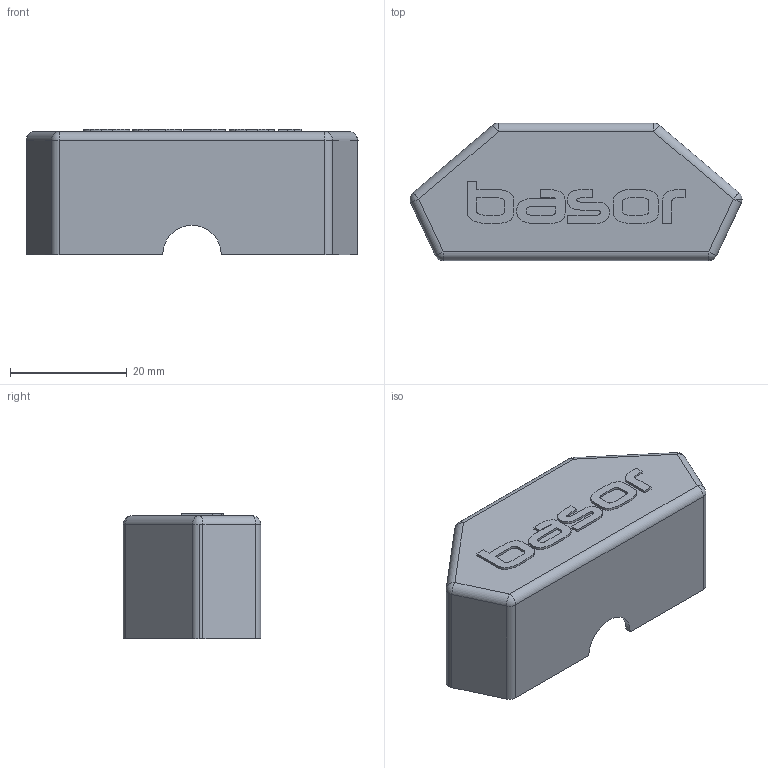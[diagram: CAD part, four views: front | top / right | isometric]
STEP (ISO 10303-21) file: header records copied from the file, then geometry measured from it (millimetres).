
FILE_DESCRIPTION (( 'STEP AP203' ), '1' );
FILE_NAME ('Tapón TFSO.STEP', '2024-04-23T10:30:28', ( '' ), ( '' ), 'SwSTEP 2.0', 'SolidWorks 2022', '' );
FILE_SCHEMA (( 'CONFIG_CONTROL_DESIGN' ));
Length unit declared in the file: millimetre
Products named in the file (1): Tapón TFSO
Bounding box: 56.77 x 23.5 x 21.4 mm (x, y, z)
Volume: 3695.3 mm3; surface area: 7507.4 mm2
Topology: 1 solids, 1 shells, 162 faces, 425 edges, 265 vertices
Faces by surface type: plane 71, bspline 47, cylinder 30, sphere 14
Entity records: 6715 total; most frequent: CARTESIAN_POINT 2980, ORIENTED_EDGE 834, DIRECTION 618, EDGE_CURVE 417, VERTEX_POINT 265, LINE 260, VECTOR 260, AXIS2_PLACEMENT_3D 179
